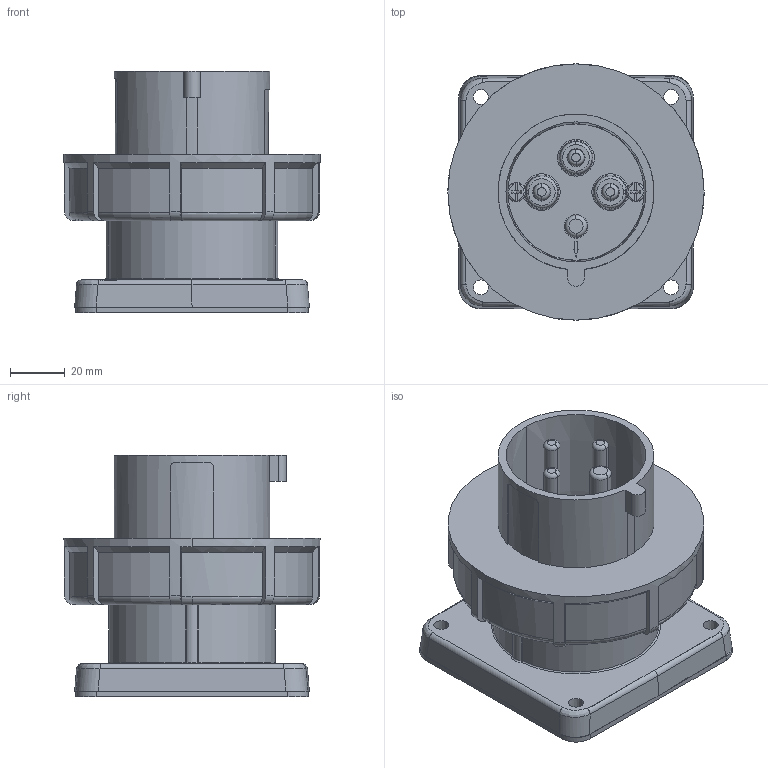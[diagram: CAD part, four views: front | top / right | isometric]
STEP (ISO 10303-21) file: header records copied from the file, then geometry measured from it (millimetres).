
FILE_DESCRIPTION((''),'2;1');
FILE_NAME('1116467_ASM_SW0001','2018-04-04T',('gisse'),('MENNEKES'),'PRO/ENGINEER BY PARAMETRIC TECHNOLOGY CORPORATION, 2015440','PRO/ENGINEER BY PARAMETRIC TECHNOLOGY CORPORATION, 2015440','');
FILE_SCHEMA(('AUTOMOTIVE_DESIGN { 1 0 10303 214 1 1 1 1 }'));
Length unit declared in the file: millimetre
Products named in the file (1): 1116467_ASM_SW0001
Bounding box: 93.5 x 93.5 x 88 mm (x, y, z)
Volume: 290832 mm3; surface area: 54977.9 mm2
Topology: 1 solids, 1 shells, 295 faces, 757 edges, 486 vertices
Faces by surface type: plane 125, cylinder 82, cone 40, torus 38, sphere 4, bspline 4, extrusion 2
Entity records: 16065 total; most frequent: CARTESIAN_POINT 2965, ORIENTED_EDGE 1514, DIRECTION 1508, PRESENTATION_STYLE_ASSIGNMENT 1032, STYLED_ITEM 760, CURVE_STYLE 759, EDGE_CURVE 757, AXIS2_PLACEMENT_3D 594
